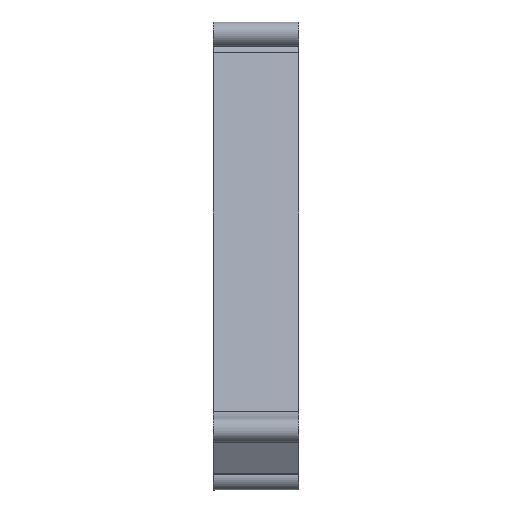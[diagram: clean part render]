
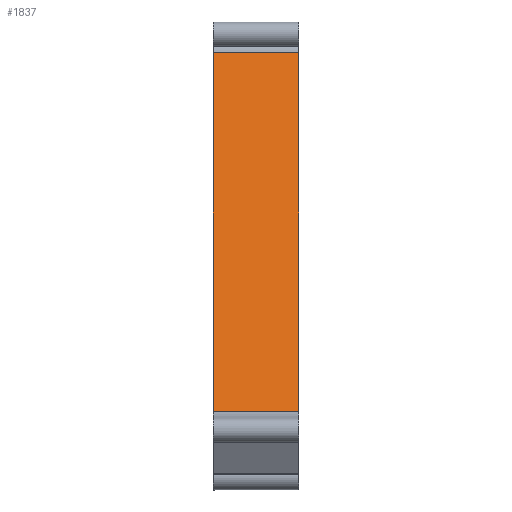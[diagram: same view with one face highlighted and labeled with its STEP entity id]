
A CAD part, front view. The second image highlights one B-rep face of the part: STEP entity #1837.
In plain terms, the highlighted planar face has unit normal (0, -0.972, 0.236).
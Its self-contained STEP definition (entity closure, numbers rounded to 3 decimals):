
#45 = PLANE('',#46);
#46 = AXIS2_PLACEMENT_3D('',#47,#48,#49);
#47 = CARTESIAN_POINT('',(120.51,124.216,-164.245));
#48 = DIRECTION('',(1.,0.,0.));
#49 = DIRECTION('',(0.,0.236,0.972));
#100 = PLANE('',#101);
#101 = AXIS2_PLACEMENT_3D('',#102,#103,#104);
#102 = CARTESIAN_POINT('',(152.91,124.216,-164.245));
#103 = DIRECTION('',(1.,0.,0.));
#104 = DIRECTION('',(0.,0.236,0.972));
#438 = VERTEX_POINT('',#439);
#439 = CARTESIAN_POINT('',(120.51,84.554,-3.071));
#454 = CYLINDRICAL_SURFACE('',#455,7.4);
#455 = AXIS2_PLACEMENT_3D('',#456,#457,#458);
#456 = CARTESIAN_POINT('',(120.51,91.744,-4.82));
#457 = DIRECTION('',(1.,0.,0.));
#458 = DIRECTION('',(0.,0.236,0.972));
#466 = EDGE_CURVE('',#467,#438,#469,.T.);
#467 = VERTEX_POINT('',#468);
#468 = CARTESIAN_POINT('',(120.51,51.464,-139.105));
#469 = SURFACE_CURVE('',#470,(#474,#481),.PCURVE_S1.);
#470 = LINE('',#471,#472);
#471 = CARTESIAN_POINT('',(120.51,49.715,-146.295));
#472 = VECTOR('',#473,1.);
#473 = DIRECTION('',(0.,0.236,0.972));
#474 = PCURVE('',#45,#475);
#475 = DEFINITIONAL_REPRESENTATION('',(#476),#480);
#476 = LINE('',#477,#478);
#477 = CARTESIAN_POINT('',(-0.167,76.633));
#478 = VECTOR('',#479,1.);
#479 = DIRECTION('',(1.,0.));
#480 = ( GEOMETRIC_REPRESENTATION_CONTEXT(2) 
PARAMETRIC_REPRESENTATION_CONTEXT() REPRESENTATION_CONTEXT('2D SPACE',''
  ) );
#481 = PCURVE('',#482,#487);
#482 = PLANE('',#483);
#483 = AXIS2_PLACEMENT_3D('',#484,#485,#486);
#484 = CARTESIAN_POINT('',(120.51,49.715,-146.295));
#485 = DIRECTION('',(0.,-0.972,0.236));
#486 = DIRECTION('',(1.,0.,0.));
#487 = DEFINITIONAL_REPRESENTATION('',(#488),#492);
#488 = LINE('',#489,#490);
#489 = CARTESIAN_POINT('',(0.,0.));
#490 = VECTOR('',#491,1.);
#491 = DIRECTION('',(0.,1.));
#492 = ( GEOMETRIC_REPRESENTATION_CONTEXT(2) 
PARAMETRIC_REPRESENTATION_CONTEXT() REPRESENTATION_CONTEXT('2D SPACE',''
  ) );
#515 = CYLINDRICAL_SURFACE('',#516,7.4);
#516 = AXIS2_PLACEMENT_3D('',#517,#518,#519);
#517 = CARTESIAN_POINT('',(120.51,58.655,-140.854));
#518 = DIRECTION('',(1.,0.,0.));
#519 = DIRECTION('',(0.,-0.236,-0.972));
#1155 = VERTEX_POINT('',#1156);
#1156 = CARTESIAN_POINT('',(152.91,84.554,-3.071));
#1178 = EDGE_CURVE('',#1179,#1155,#1181,.T.);
#1179 = VERTEX_POINT('',#1180);
#1180 = CARTESIAN_POINT('',(152.91,51.464,-139.105));
#1181 = SURFACE_CURVE('',#1182,(#1186,#1193),.PCURVE_S1.);
#1182 = LINE('',#1183,#1184);
#1183 = CARTESIAN_POINT('',(152.91,49.715,-146.295));
#1184 = VECTOR('',#1185,1.);
#1185 = DIRECTION('',(0.,0.236,0.972));
#1186 = PCURVE('',#100,#1187);
#1187 = DEFINITIONAL_REPRESENTATION('',(#1188),#1192);
#1188 = LINE('',#1189,#1190);
#1189 = CARTESIAN_POINT('',(-0.167,76.633));
#1190 = VECTOR('',#1191,1.);
#1191 = DIRECTION('',(1.,0.));
#1192 = ( GEOMETRIC_REPRESENTATION_CONTEXT(2) 
PARAMETRIC_REPRESENTATION_CONTEXT() REPRESENTATION_CONTEXT('2D SPACE',''
  ) );
#1193 = PCURVE('',#482,#1194);
#1194 = DEFINITIONAL_REPRESENTATION('',(#1195),#1199);
#1195 = LINE('',#1196,#1197);
#1196 = CARTESIAN_POINT('',(32.4,0.));
#1197 = VECTOR('',#1198,1.);
#1198 = DIRECTION('',(0.,1.));
#1199 = ( GEOMETRIC_REPRESENTATION_CONTEXT(2) 
PARAMETRIC_REPRESENTATION_CONTEXT() REPRESENTATION_CONTEXT('2D SPACE',''
  ) );
#1789 = EDGE_CURVE('',#467,#1179,#1790,.T.);
#1790 = SURFACE_CURVE('',#1791,(#1795,#1802),.PCURVE_S1.);
#1791 = LINE('',#1792,#1793);
#1792 = CARTESIAN_POINT('',(120.51,51.464,-139.105));
#1793 = VECTOR('',#1794,1.);
#1794 = DIRECTION('',(1.,0.,0.));
#1795 = PCURVE('',#515,#1796);
#1796 = DEFINITIONAL_REPRESENTATION('',(#1797),#1801);
#1797 = LINE('',#1798,#1799);
#1798 = CARTESIAN_POINT('',(-1.571,0.));
#1799 = VECTOR('',#1800,1.);
#1800 = DIRECTION('',(-0.,1.));
#1801 = ( GEOMETRIC_REPRESENTATION_CONTEXT(2) 
PARAMETRIC_REPRESENTATION_CONTEXT() REPRESENTATION_CONTEXT('2D SPACE',''
  ) );
#1802 = PCURVE('',#482,#1803);
#1803 = DEFINITIONAL_REPRESENTATION('',(#1804),#1808);
#1804 = LINE('',#1805,#1806);
#1805 = CARTESIAN_POINT('',(0.,7.4));
#1806 = VECTOR('',#1807,1.);
#1807 = DIRECTION('',(1.,0.));
#1808 = ( GEOMETRIC_REPRESENTATION_CONTEXT(2) 
PARAMETRIC_REPRESENTATION_CONTEXT() REPRESENTATION_CONTEXT('2D SPACE',''
  ) );
#1837 = ADVANCED_FACE('',(#1838),#482,.T.);
#1838 = FACE_BOUND('',#1839,.T.);
#1839 = EDGE_LOOP('',(#1840,#1841,#1842,#1843));
#1840 = ORIENTED_EDGE('',*,*,#466,.F.);
#1841 = ORIENTED_EDGE('',*,*,#1789,.T.);
#1842 = ORIENTED_EDGE('',*,*,#1178,.T.);
#1843 = ORIENTED_EDGE('',*,*,#1844,.F.);
#1844 = EDGE_CURVE('',#438,#1155,#1845,.T.);
#1845 = SURFACE_CURVE('',#1846,(#1850,#1857),.PCURVE_S1.);
#1846 = LINE('',#1847,#1848);
#1847 = CARTESIAN_POINT('',(120.51,84.554,-3.071));
#1848 = VECTOR('',#1849,1.);
#1849 = DIRECTION('',(1.,0.,0.));
#1850 = PCURVE('',#482,#1851);
#1851 = DEFINITIONAL_REPRESENTATION('',(#1852),#1856);
#1852 = LINE('',#1853,#1854);
#1853 = CARTESIAN_POINT('',(0.,147.4));
#1854 = VECTOR('',#1855,1.);
#1855 = DIRECTION('',(1.,0.));
#1856 = ( GEOMETRIC_REPRESENTATION_CONTEXT(2) 
PARAMETRIC_REPRESENTATION_CONTEXT() REPRESENTATION_CONTEXT('2D SPACE',''
  ) );
#1857 = PCURVE('',#454,#1858);
#1858 = DEFINITIONAL_REPRESENTATION('',(#1859),#1863);
#1859 = LINE('',#1860,#1861);
#1860 = CARTESIAN_POINT('',(1.571,0.));
#1861 = VECTOR('',#1862,1.);
#1862 = DIRECTION('',(0.,1.));
#1863 = ( GEOMETRIC_REPRESENTATION_CONTEXT(2) 
PARAMETRIC_REPRESENTATION_CONTEXT() REPRESENTATION_CONTEXT('2D SPACE',''
  ) );
